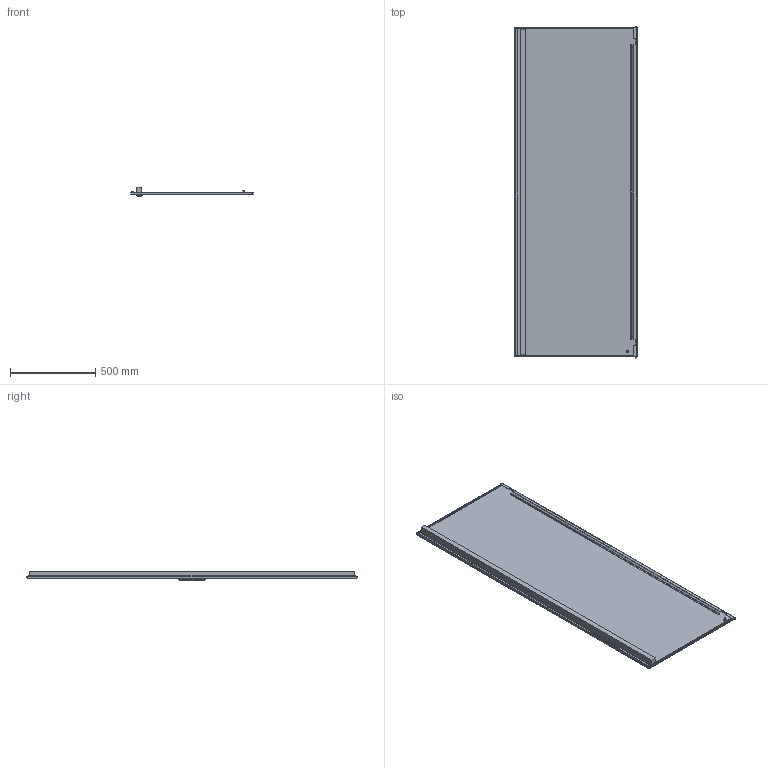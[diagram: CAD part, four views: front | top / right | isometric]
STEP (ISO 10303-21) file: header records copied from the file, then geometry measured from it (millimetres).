
FILE_DESCRIPTION (( 'STEP AP203' ), '1' );
FILE_NAME ('D 200.80 I Äâåðü òåëåêîììóíèêàöèîííàÿ.STEP', '2013-01-11T17:58:12', ( '' ), ( '' ), 'SwSTEP 2.0', 'SolidWorks 2012', '' );
FILE_SCHEMA (( 'CONFIG_CONTROL_DESIGN' ));
Length unit declared in the file: millimetre
Products named in the file (1): D 200.80 I Äâåðü òåëåêîììóíèêàöèîííàÿ
Bounding box: 718 x 1950.5 x 55 mm (x, y, z)
Volume: 4706481.2 mm3; surface area: 3266448.2 mm2
Topology: 3 solids, 3 shells, 175 faces, 406 edges, 226 vertices
Faces by surface type: cylinder 70, plane 65, sphere 24, cone 12, torus 4
Entity records: 4827 total; most frequent: DIRECTION 900, CARTESIAN_POINT 788, ORIENTED_EDGE 772, EDGE_CURVE 386, AXIS2_PLACEMENT_3D 338, VERTEX_POINT 226, VECTOR 224, LINE 224
